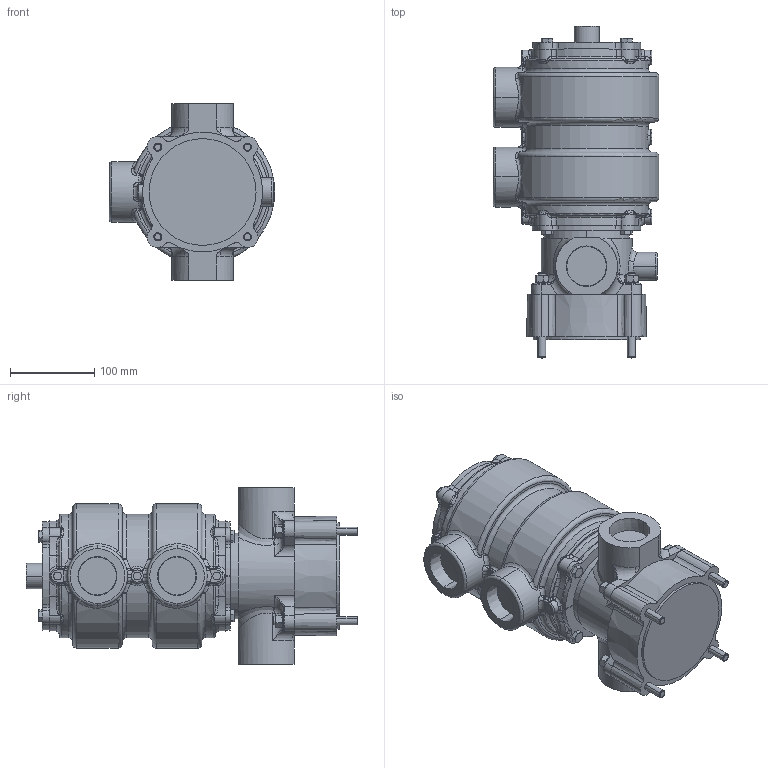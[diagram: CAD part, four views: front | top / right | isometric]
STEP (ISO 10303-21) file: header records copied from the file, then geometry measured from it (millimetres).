
FILE_DESCRIPTION (( 'STEP AP214' ), '1' );
FILE_NAME ('9001_rev0.STEP', '2020-11-14T01:21:17', ( '' ), ( '' ), 'SwSTEP 2.0', 'SolidWorks 2019', '' );
FILE_SCHEMA (( 'AUTOMOTIVE_DESIGN' ));
Length unit declared in the file: inch
Products named in the file (2): 9001_rev0
Bounding box: 196.98 x 394.7 x 209.55 mm (x, y, z)
Volume: 6696395.7 mm3; surface area: 297374.4 mm2
Topology: 1 solids, 1 shells, 875 faces, 2096 edges, 1236 vertices
Faces by surface type: cylinder 215, bspline 196, plane 193, cone 135, torus 112, sphere 24
Entity records: 37164 total; most frequent: CARTESIAN_POINT 18336, ORIENTED_EDGE 4152, DIRECTION 3750, EDGE_CURVE 2076, AXIS2_PLACEMENT_3D 1637, VERTEX_POINT 1236, CIRCLE 956, EDGE_LOOP 908
